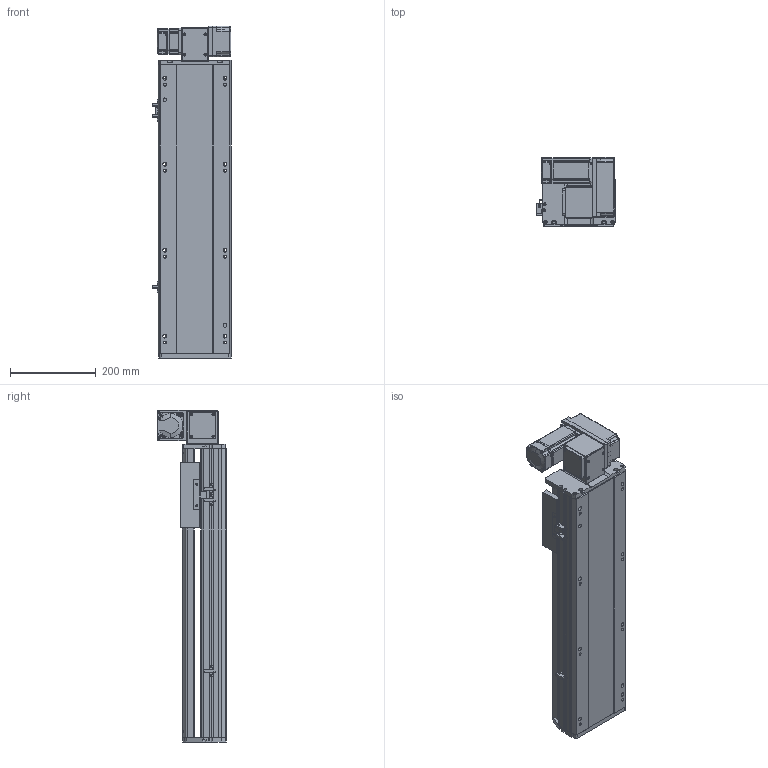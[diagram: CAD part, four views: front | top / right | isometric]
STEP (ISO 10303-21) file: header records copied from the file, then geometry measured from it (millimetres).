
FILE_DESCRIPTION (( 'STEP AP214' ), '1' );
FILE_NAME ('RTB17S-XX-400-RW-M40-C4.STEP', '2025-12-11T08:50:06', ( '' ), ( '' ), 'SwSTEP 2.0', 'SolidWorks 2018', '' );
FILE_SCHEMA (( 'AUTOMOTIVE_DESIGN' ));
Length unit declared in the file: millimetre
Products named in the file (14): RTB17S-L-004佪裝蹟譫蟀諉釱^RTB17S-XX-XX-RW-M40-C4; RTB14-L-005P--轴承塑胶压盖^RTB17S-RW-皮带座装配-400W_RTB17S-XX-XX-RW-M40-C4; RTH13-BL-012覜茼え俋离^RTB17S-XX-XX-RW-M40-C4; RTB17S-XX-400-RW-M40-C4; RTB17-R-011菁釱^RTB17S-XX-XX-RW-M40-C4; 400W侜督萇儂^RTB17S-XX-XX-RW-M40-C4; RTB14-L-017P^RTB17S-RW-々湍釱蚾饜-400W_RTB17S-XX-XX-RW-M40-C4; RTB17S-RW-々湍釱蚾饜-400W^RTB17S-XX-XX-RW-M40-C4; RTB14-L-018P^RTB17S-RW-々湍釱蚾饜-400W_RTB17S-XX-XX-RW-M40-C4; RMP17S-L-014-T20--々湍釱^RTB17S-RW-々湍釱蚾饜-400W_RTB17S-XX-XX-RW-M40-C4; OMRON EE-SX672 传感器^RTB17S-XX-XX-RW-M40-C4; RTB17S-L-007奻裔^RTB17S-XX-XX-RW-M40-C4; RTB17S-L-001耜醱啣^RTB17S-XX-XX-RW-M40-C4; RTB14-L-008-M20--萇儂啣^RTB17S-RW-々湍釱蚾饜-400W_RTB17S-XX-XX-RW-M40-C4
Assembly tree (16 placements, depth 3):
  RTB17S-XX-400-RW-M40-C4
    RTB17-R-011菁釱^RTB17S-XX-XX-RW-M40-C4
    RTB17S-L-007奻裔^RTB17S-XX-XX-RW-M40-C4
    OMRON EE-SX672 传感器^RTB17S-XX-XX-RW-M40-C4  x3
    RTB17S-L-001耜醱啣^RTB17S-XX-XX-RW-M40-C4
    400W侜督萇儂^RTB17S-XX-XX-RW-M40-C4
    RTB17S-L-004佪裝蹟譫蟀諉釱^RTB17S-XX-XX-RW-M40-C4
    RTH13-BL-012覜茼え俋离^RTB17S-XX-XX-RW-M40-C4
    RTB17S-RW-々湍釱蚾饜-400W^RTB17S-XX-XX-RW-M40-C4
      RMP17S-L-014-T20--々湍釱^RTB17S-RW-々湍釱蚾饜-400W_RTB17S-XX-XX-RW-M40-C4
      RTB14-L-005P--轴承塑胶压盖^RTB17S-RW-皮带座装配-400W_RTB17S-XX-XX-RW-M40-C4
      RTB14-L-008-M20--萇儂啣^RTB17S-RW-々湍釱蚾饜-400W_RTB17S-XX-XX-RW-M40-C4
      RTB14-L-017P^RTB17S-RW-々湍釱蚾饜-400W_RTB17S-XX-XX-RW-M40-C4  x2
      RTB14-L-018P^RTB17S-RW-々湍釱蚾饜-400W_RTB17S-XX-XX-RW-M40-C4
Bounding box: 183.5 x 160.5 x 772.5 mm (x, y, z)
Volume: 7484045.1 mm3; surface area: 963590.7 mm2
Topology: 15 solids, 15 shells, 2157 faces, 5925 edges, 3861 vertices
Faces by surface type: plane 1062, cylinder 647, bspline 301, cone 139, torus 8
Entity records: 60329 total; most frequent: CARTESIAN_POINT 16730, ORIENTED_EDGE 8694, DIRECTION 8126, EDGE_CURVE 4347, VERTEX_POINT 2849, AXIS2_PLACEMENT_3D 2779, LINE 2568, VECTOR 2568
